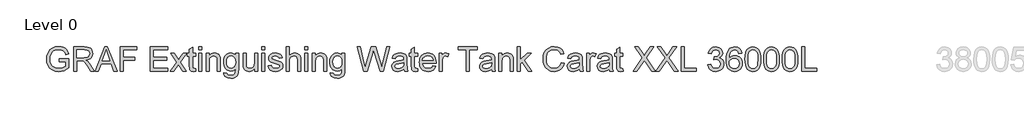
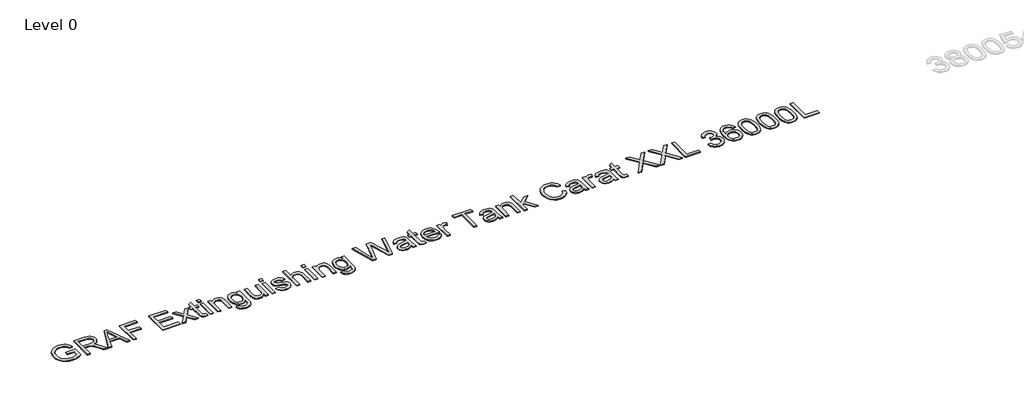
# One storey, part 10 of 37: 1 proxy.
"""IFC4 building model written with IfcOpenShell, lengths in millimetres."""

from ifc_helpers import new_model, si_unit, origin, origin_with_axes, place, context, project, spatial, polyline, outline, extrude, element, save

model = new_model("IFC4")

# Units and contexts
model_context = context("Model", 3, world=origin())
ifc_project = project(units=[si_unit("LENGTHUNIT", "METRE", prefix="MILLI")], contexts=[model_context])

# Site, building, storey
site = spatial("IfcSite", under=ifc_project)
building = spatial("IfcBuilding", under=site)
storey = spatial("IfcBuildingStorey", under=building, Name="Level 0", Elevation=0.0)

# Proxy
placement = place(None, origin())
element("IfcBuildingElementProxy", 1, Name="300mm Arial", ObjectType="300mm Arial", at=placement, inside=storey, context=model_context, shape_type="SweptSolid", body=[
    extrude(outline(polyline([(-17240.9940387, -17583.2545597), (-17240.9940387, -17545.5834434), (-17118.5629107, -17545.5834434), (-17118.5629107, -17658.2289103), (-17148.3153671, -17678.9222726), (-17179.0059225, -17693.7663111), (-17210.5610007, -17702.7058436), (-17242.9070251, -17705.6856877), (-17285.1674693, -17700.949207), (-17323.3628175, -17686.739765), (-17355.0926395, -17663.5540022), (-17377.9565055, -17631.8885595), (-17391.7796715, -17593.9047435), (-17396.3873935, -17551.7638609), (-17391.7980656, -17509.3194757), (-17378.0300819, -17469.8365406), (-17355.6536596, -17436.717964), (-17325.2390156, -17413.3666543), (-17288.1932987, -17399.5158972), (-17245.9236575, -17394.8989782), (-17214.8928112, -17397.5753197), (-17186.9889618, -17405.6043443), (-17163.4904994, -17418.4066377), (-17145.6758138, -17435.4027859), (-17132.4964413, -17457.4113262), (-17122.9039183, -17485.2507962), (-17157.6319786, -17495.0364573), (-17165.3850917, -17475.1800266), (-17174.8120678, -17460.1980323), (-17187.2832674, -17448.9040551), (-17204.169051, -17440.1116754), (-17224.3013932, -17434.4554897), (-17246.5122687, -17432.5700945), (-17272.5123287, -17434.6026425), (-17294.7415982, -17440.7002866), (-17313.1173039, -17450.0996716), (-17327.5566722, -17462.0374423), (-17346.9440533, -17491.0633317), (-17355.7732212, -17519.50061), (-17358.7162772, -17550.2187566), (-17355.175413, -17586.2436009), (-17344.5528204, -17615.8856927), (-17327.1703961, -17638.9334997), (-17303.3500369, -17655.1754898), (-17275.4737787, -17664.804801), (-17245.9236575, -17668.0145714), (-17219.831627, -17665.5957473), (-17194.3833899, -17658.3392749), (-17172.2828791, -17648.3420817), (-17156.234027, -17637.701095), (-17156.234027, -17583.2545597), (-17240.9940387, -17583.2545597)])), origin_with_axes(), (0.0, 0.0, 1.0), 10.0),
    extrude(outline(polyline([(-17057.3473467, -17700.9767982), (-17057.3473467, -17399.6078677), (-16927.4850024, -17399.6078677), (-16892.5821982, -17401.6404158), (-16867.1891434, -17407.7380598), (-16848.6294968, -17418.9952489), (-16834.2269167, -17436.5064318), (-16824.9838815, -17458.2206666), (-16821.9028698, -17482.087011), (-16827.0072325, -17511.7750881), (-16842.3203206, -17536.3863935), (-16853.9200997, -17546.4157764), (-16868.3019865, -17554.4310054), (-16905.4120827, -17564.4190016), (-16884.0013506, -17580.532233), (-16853.467145, -17619.3069952), (-16803.2144645, -17700.9767982), (-16846.9924219, -17700.9767982), (-16886.2086426, -17638.5104354), (-16914.5355562, -17597.1604991), (-16934.4379722, -17577.6259652), (-16952.3538253, -17570.4522663), (-16974.2060158, -17569.1278911), (-17019.6762304, -17569.1278911), (-17019.6762304, -17700.9767982), (-17057.3473467, -17700.9767982)]), holes=[polyline([(-17019.6762304, -17531.4567748), (-16935.3576771, -17531.4567748), (-16911.1418448, -17530.1232026), (-16892.3522719, -17526.1224859), (-16878.2072092, -17519.1879103), (-16867.9249074, -17509.0527613), (-16861.6617165, -17496.7930938), (-16859.5739861, -17483.4849626), (-16863.5563087, -17465.109257), (-16875.5032765, -17450.3020067), (-16896.058683, -17440.5347397), (-16925.8663217, -17437.278984), (-17019.6762304, -17437.278984), (-17019.6762304, -17531.4567748)])]), origin_with_axes(), (0.0, 0.0, 1.0), 10.0),
    extrude(outline(polyline([(-16791.0743586, -17700.9767982), (-16670.7769462, -17399.6078677), (-16638.6976362, -17399.6078677), (-16518.4002238, -17700.9767982), (-16558.2050557, -17700.9767982), (-16592.7123868, -17606.7990074), (-16716.835772, -17606.7990074), (-16751.2695268, -17700.9767982), (-16791.0743586, -17700.9767982)]), holes=[polyline([(-16703.003409, -17569.1278911), (-16606.4711735, -17569.1278911), (-16633.6208647, -17495.0364573), (-16654.7372912, -17437.278984), (-16673.499273, -17488.5617342), (-16703.003409, -17569.1278911)])]), origin_with_axes(), (0.0, 0.0, 1.0), 10.0),
    extrude(outline(polyline([(-16478.1539335, -17700.9767982), (-16478.1539335, -17399.6078677), (-16275.6716834, -17399.6078677), (-16275.6716834, -17437.278984), (-16440.4828172, -17437.278984), (-16440.4828172, -17526.7478853), (-16299.2161311, -17526.7478853), (-16299.2161311, -17564.4190016), (-16440.4828172, -17564.4190016), (-16440.4828172, -17700.9767982), (-16478.1539335, -17700.9767982)])), origin_with_axes(), (0.0, 0.0, 1.0), 10.0),
    extrude(outline(polyline([(-16106.15166, -17700.9767982), (-16106.15166, -17399.6078677), (-15889.5427413, -17399.6078677), (-15889.5427413, -17437.278984), (-16068.4805437, -17437.278984), (-16068.4805437, -17526.7478853), (-15898.9605203, -17526.7478853), (-15898.9605203, -17564.4190016), (-16068.4805437, -17564.4190016), (-16068.4805437, -17663.3056819), (-15884.8338517, -17663.3056819), (-15884.8338517, -17700.9767982), (-16106.15166, -17700.9767982)])), origin_with_axes(), (0.0, 0.0, 1.0), 10.0),
    extrude(outline(polyline([(-15856.5805145, -17700.9767982), (-15776.0879339, -17589.7292828), (-15851.8716249, -17479.6589899), (-15806.5485631, -17479.6589899), (-15769.9810928, -17532.6339972), (-15752.9113682, -17557.6499729), (-15738.122512, -17537.1957339), (-15696.4782702, -17479.6589899), (-15651.1552084, -17479.6589899), (-15730.7648721, -17589.7292828), (-15654.0982643, -17700.9767982), (-15699.4213261, -17700.9767982), (-15745.5537283, -17634.0958515), (-15754.0150142, -17621.8821692), (-15811.2574527, -17700.9767982), (-15856.5805145, -17700.9767982)])), origin_with_axes(), (0.0, 0.0, 1.0), 10.0),
    extrude(outline(polyline([(-15541.0849154, -17669.5596758), (-15536.3760259, -17702.0804442), (-15564.5557867, -17705.6856877), (-15582.6371868, -17704.1221892), (-15596.1200619, -17699.4316938), (-15605.6482056, -17692.2028126), (-15611.8654113, -17683.0241568), (-15615.2867139, -17667.2604133), (-15616.427148, -17640.276269), (-15616.427148, -17517.3301062), (-15644.6804853, -17517.3301062), (-15644.6804853, -17479.6589899), (-15616.427148, -17479.6589899), (-15616.427148, -17425.8746422), (-15578.7560317, -17403.7281461), (-15578.7560317, -17479.6589899), (-15541.0849154, -17479.6589899), (-15541.0849154, -17517.3301062), (-15578.7560317, -17517.3301062), (-15578.7560317, -17639.172623), (-15576.769469, -17658.5967923), (-15570.331534, -17665.4761856), (-15557.4924524, -17668.0145714), (-15541.0849154, -17669.5596758)])), origin_with_axes(), (0.0, 0.0, 1.0), 10.0),
    extrude(outline(polyline([(-15503.4137991, -17437.278984), (-15503.4137991, -17399.6078677), (-15465.7426828, -17399.6078677), (-15465.7426828, -17437.278984), (-15503.4137991, -17437.278984)])), origin_with_axes(), (0.0, 0.0, 1.0), 10.0),
    extrude(outline(polyline([(-15503.4137991, -17700.9767982), (-15503.4137991, -17479.6589899), (-15465.7426828, -17479.6589899), (-15465.7426828, -17700.9767982), (-15503.4137991, -17700.9767982)])), origin_with_axes(), (0.0, 0.0, 1.0), 10.0),
    extrude(outline(polyline([(-15409.2360084, -17700.9767982), (-15409.2360084, -17479.6589899), (-15371.564892, -17479.6589899), (-15371.564892, -17510.5610775), (-15358.4774901, -17494.981275), (-15342.7597318, -17483.8528446), (-15324.4116173, -17477.1757864), (-15303.4331465, -17474.9501003), (-15284.8643028, -17476.7435251), (-15267.8589576, -17482.1237992), (-15253.6771067, -17490.4195382), (-15243.5787459, -17500.9593574), (-15232.2847687, -17528.6608716), (-15230.2982059, -17565.0811892), (-15230.2982059, -17700.9767982), (-15267.9693222, -17700.9767982), (-15267.9693222, -17570.1579607), (-15272.3103297, -17536.8278519), (-15278.3160033, -17526.9042351), (-15287.6510089, -17519.2063044), (-15299.6163708, -17514.2674886), (-15313.5131132, -17512.6212166), (-15335.5768359, -17516.3184307), (-15354.3848029, -17527.4100729), (-15361.9010919, -17536.4645685), (-15367.2698698, -17548.8391991), (-15371.564892, -17583.5488653), (-15371.564892, -17700.9767982), (-15409.2360084, -17700.9767982)])), origin_with_axes(), (0.0, 0.0, 1.0), 10.0),
    extrude(outline(polyline([(-15187.9182001, -17719.8123563), (-15150.2470837, -17724.5212459), (-15146.0900172, -17736.2934697), (-15138.0334015, -17744.3868736), (-15122.1960816, -17750.6776557), (-15101.4659312, -17752.7745831), (-15079.3562233, -17750.4017442), (-15062.9118981, -17743.2832276), (-15051.5075562, -17731.8788858), (-15044.5177983, -17716.6485712), (-15041.9426244, -17672.7234609), (-15054.4782034, -17685.084296), (-15068.4669162, -17693.9134639), (-15083.908763, -17699.2109646), (-15100.8037436, -17700.9767982), (-15121.4580184, -17698.9212575), (-15139.6428852, -17692.7546356), (-15155.3583442, -17682.4769323), (-15168.6043953, -17668.0881478), (-15179.1143241, -17650.8252852), (-15186.621416, -17631.9253477), (-15191.1256712, -17611.3883353), (-15192.6270896, -17589.214248), (-15189.932354, -17558.7996041), (-15181.8481471, -17530.8313754), (-15168.6595776, -17507.1305779), (-15150.6517539, -17489.5182274), (-15128.4408785, -17478.5921321), (-15102.6431536, -17474.9501003), (-15085.0262045, -17477.0102395), (-15069.0371333, -17483.190657), (-15054.6759399, -17493.4913529), (-15041.9426244, -17507.9123271), (-15041.9426244, -17479.6589899), (-15004.2715081, -17479.6589899), (-15004.2715081, -17670.7368982), (-15006.846682, -17714.8551464), (-15014.5722039, -17743.908627), (-15027.8803351, -17763.1764465), (-15047.2033369, -17777.9377116), (-15072.118145, -17787.3187024), (-15102.2016952, -17790.4456994), (-15137.2516523, -17786.0403125), (-15164.851999, -17772.8241518), (-15175.2469646, -17762.9028343), (-15182.55632, -17750.7604292), (-15186.7800651, -17736.3969365), (-15187.9182001, -17719.8123563)]), holes=[polyline([(-15154.9559733, -17586.6390741), (-15150.9368625, -17621.1923905), (-15138.8795301, -17644.9483703), (-15120.7521448, -17658.716354), (-15098.5228752, -17663.3056819), (-15076.4591526, -17658.7439451), (-15058.2397968, -17645.0587349), (-15046.0169175, -17621.6062577), (-15041.9426244, -17587.7427201), (-15046.1364791, -17555.0839959), (-15058.7180433, -17531.5671394), (-15077.2041136, -17517.3576973), (-15099.1114864, -17512.6212166), (-15120.6233861, -17517.2841209), (-15138.6588009, -17531.2728338), (-15150.8816802, -17554.4402024), (-15154.9559733, -17586.6390741)])]), origin_with_axes(), (0.0, 0.0, 1.0), 10.0),
    extrude(outline(polyline([(-14806.4981475, -17700.9767982), (-14806.4981475, -17662.9377999), (-14820.1281754, -17681.6400008), (-14836.0022835, -17694.9987158), (-14854.1204717, -17703.0139447), (-14874.4827402, -17705.6856877), (-14892.8308547, -17703.8094895), (-14909.9097763, -17698.180895), (-14924.23878, -17689.7196091), (-14934.3371408, -17679.3453369), (-14945.5575416, -17651.6070344), (-14947.7648336, -17616.5846685), (-14947.7648336, -17479.6589899), (-14910.0937173, -17479.6589899), (-14910.0937173, -17598.8527563), (-14907.8128489, -17637.2596366), (-14902.3222101, -17650.0711271), (-14892.9136281, -17659.8108029), (-14880.2125022, -17665.9636293), (-14864.8442319, -17668.0145714), (-14848.5930448, -17665.917644), (-14833.3903213, -17659.6268619), (-14820.8547423, -17649.7216392), (-14812.6049886, -17636.78139), (-14808.0248577, -17619.0586749), (-14806.4981475, -17594.8060544), (-14806.4981475, -17479.6589899), (-14768.8270311, -17479.6589899), (-14768.8270311, -17700.9767982), (-14806.4981475, -17700.9767982)])), origin_with_axes(), (0.0, 0.0, 1.0), 10.0),
    extrude(outline(polyline([(-14717.0292462, -17437.278984), (-14717.0292462, -17399.6078677), (-14679.3581299, -17399.6078677), (-14679.3581299, -17437.278984), (-14717.0292462, -17437.278984)])), origin_with_axes(), (0.0, 0.0, 1.0), 10.0),
    extrude(outline(polyline([(-14717.0292462, -17700.9767982), (-14717.0292462, -17479.6589899), (-14679.3581299, -17479.6589899), (-14679.3581299, -17700.9767982), (-14717.0292462, -17700.9767982)])), origin_with_axes(), (0.0, 0.0, 1.0), 10.0),
    extrude(outline(polyline([(-14636.9781241, -17635.0523446), (-14599.3070078, -17630.3434551), (-14593.3657135, -17646.4566865), (-14581.8694012, -17658.3024867), (-14564.7444943, -17665.5865502), (-14541.9174165, -17668.0145714), (-14519.3662502, -17665.7888853), (-14503.5105362, -17659.1118271), (-14494.1295453, -17649.4365307), (-14491.0025484, -17638.2161298), (-14494.1479394, -17628.6144097), (-14503.5841126, -17621.293558), (-14542.3588749, -17610.5514038), (-14599.0862786, -17592.1205158), (-14613.4428734, -17582.8590866), (-14623.8447368, -17570.5994191), (-14630.1631101, -17556.1232626), (-14632.2692345, -17540.2123663), (-14630.5769774, -17525.6166481), (-14625.5002058, -17512.1429701), (-14617.4987724, -17500.324761), (-14607.0325297, -17490.6954497), (-14583.0834118, -17479.5486253), (-14550.673008, -17474.9501003), (-14526.153673, -17476.7987074), (-14504.8349114, -17482.3445284), (-14487.6916104, -17491.0449376), (-14475.6986574, -17502.357309), (-14467.7524063, -17517.118574), (-14462.7492112, -17536.1656643), (-14500.4203275, -17540.8745539), (-14505.1752023, -17529.0195566), (-14514.5837843, -17520.0892211), (-14528.738044, -17514.4882178), (-14547.729952, -17512.6212166), (-14569.3614134, -17514.4054443), (-14583.7823876, -17519.7581274), (-14591.8941856, -17527.4836493), (-14594.5981182, -17536.3863935), (-14590.1099579, -17547.349277), (-14576.0568657, -17555.6634101), (-14543.6096737, -17563.6832376), (-14488.3170098, -17581.4151497), (-14473.7120946, -17589.8948297), (-14462.6388466, -17601.5015067), (-14455.6582857, -17616.2719688), (-14453.3314321, -17634.2430043), (-14456.0629559, -17652.821045), (-14464.2575273, -17670.2954398), (-14477.6024467, -17685.2958281), (-14495.7850143, -17696.4518496), (-14517.7475694, -17703.3772282), (-14542.4324513, -17705.6856877), (-14580.4162673, -17701.2343156), (-14608.1361757, -17687.8801991), (-14626.64064, -17665.7704912), (-14636.9781241, -17635.0523446)])), origin_with_axes(), (0.0, 0.0, 1.0), 10.0),
    extrude(outline(polyline([(-14410.9514262, -17700.9767982), (-14410.9514262, -17399.6078677), (-14373.2803099, -17399.6078677), (-14373.2803099, -17510.4139247), (-14359.4433484, -17494.8985015), (-14343.9049326, -17483.8160564), (-14326.6650626, -17477.1665894), (-14307.7237384, -17474.9501003), (-14284.970237, -17477.3689245), (-14265.4173089, -17484.6253968), (-14250.0214474, -17496.1493003), (-14239.7391457, -17511.3704179), (-14233.9450043, -17532.2845093), (-14232.0136238, -17560.8873344), (-14232.0136238, -17700.9767982), (-14269.6847401, -17700.9767982), (-14269.6847401, -17564.7868836), (-14272.6829784, -17541.2056477), (-14281.6776931, -17525.0556281), (-14296.1722437, -17515.7298195), (-14315.6699895, -17512.6212166), (-14331.5900828, -17514.718144), (-14346.5352889, -17521.0089261), (-14358.914518, -17530.8865577), (-14367.1366806, -17543.7440334), (-14371.7444026, -17560.8321521), (-14373.2803099, -17583.4017125), (-14373.2803099, -17700.9767982), (-14410.9514262, -17700.9767982)])), origin_with_axes(), (0.0, 0.0, 1.0), 10.0),
    extrude(outline(polyline([(-14180.2158389, -17437.278984), (-14180.2158389, -17399.6078677), (-14142.5447226, -17399.6078677), (-14142.5447226, -17437.278984), (-14180.2158389, -17437.278984)])), origin_with_axes(), (0.0, 0.0, 1.0), 10.0),
    extrude(outline(polyline([(-14180.2158389, -17700.9767982), (-14180.2158389, -17479.6589899), (-14142.5447226, -17479.6589899), (-14142.5447226, -17700.9767982), (-14180.2158389, -17700.9767982)])), origin_with_axes(), (0.0, 0.0, 1.0), 10.0),
    extrude(outline(polyline([(-14086.0380481, -17700.9767982), (-14086.0380481, -17479.6589899), (-14048.3669318, -17479.6589899), (-14048.3669318, -17510.5610775), (-14035.2795298, -17494.981275), (-14019.5617716, -17483.8528446), (-14001.2136571, -17477.1757864), (-13980.2351863, -17474.9501003), (-13961.6663426, -17476.7435251), (-13944.6609974, -17482.1237992), (-13930.4791464, -17490.4195382), (-13920.3807857, -17500.9593574), (-13909.0868084, -17528.6608716), (-13907.1002456, -17565.0811892), (-13907.1002456, -17700.9767982), (-13944.771362, -17700.9767982), (-13944.771362, -17570.1579607), (-13949.1123695, -17536.8278519), (-13955.1180431, -17526.9042351), (-13964.4530487, -17519.2063044), (-13976.4184106, -17514.2674886), (-13990.315153, -17512.6212166), (-14012.3788756, -17516.3184307), (-14031.1868426, -17527.4100729), (-14038.7031316, -17536.4645685), (-14044.0719095, -17548.8391991), (-14048.3669318, -17583.5488653), (-14048.3669318, -17700.9767982), (-14086.0380481, -17700.9767982)])), origin_with_axes(), (0.0, 0.0, 1.0), 10.0),
    extrude(outline(polyline([(-13864.7202398, -17719.8123563), (-13827.0491235, -17724.5212459), (-13822.8920569, -17736.2934697), (-13814.8354413, -17744.3868736), (-13798.9981214, -17750.6776557), (-13778.2679709, -17752.7745831), (-13756.158263, -17750.4017442), (-13739.7139378, -17743.2832276), (-13728.309596, -17731.8788858), (-13721.3198381, -17716.6485712), (-13718.7446641, -17672.7234609), (-13731.2802431, -17685.084296), (-13745.268956, -17693.9134639), (-13760.7108027, -17699.2109646), (-13777.6057833, -17700.9767982), (-13798.2600581, -17698.9212575), (-13816.444925, -17692.7546356), (-13832.160384, -17682.4769323), (-13845.4064351, -17668.0881478), (-13855.9163638, -17650.8252852), (-13863.4234558, -17631.9253477), (-13867.9277109, -17611.3883353), (-13869.4291293, -17589.214248), (-13866.7343937, -17558.7996041), (-13858.6501869, -17530.8313754), (-13845.4616174, -17507.1305779), (-13827.4537937, -17489.5182274), (-13805.2429182, -17478.5921321), (-13779.4451933, -17474.9501003), (-13761.8282443, -17477.0102395), (-13745.8391731, -17483.190657), (-13731.4779797, -17493.4913529), (-13718.7446641, -17507.9123271), (-13718.7446641, -17479.6589899), (-13681.0735478, -17479.6589899), (-13681.0735478, -17670.7368982), (-13683.6487218, -17714.8551464), (-13691.3742437, -17743.908627), (-13704.6823748, -17763.1764465), (-13724.0053766, -17777.9377116), (-13748.9201848, -17787.3187024), (-13779.0037349, -17790.4456994), (-13814.053692, -17786.0403125), (-13841.6540387, -17772.8241518), (-13852.0490043, -17762.9028343), (-13859.3583597, -17750.7604292), (-13863.5821049, -17736.3969365), (-13864.7202398, -17719.8123563)]), holes=[polyline([(-13831.758013, -17586.6390741), (-13827.7389022, -17621.1923905), (-13815.6815698, -17644.9483703), (-13797.5541845, -17658.716354), (-13775.324915, -17663.3056819), (-13753.2611923, -17658.7439451), (-13735.0418365, -17645.0587349), (-13722.8189572, -17621.6062577), (-13718.7446641, -17587.7427201), (-13722.9385189, -17555.0839959), (-13735.5200831, -17531.5671394), (-13754.0061534, -17517.3576973), (-13775.9135262, -17512.6212166), (-13797.4254258, -17517.2841209), (-13815.4608406, -17531.2728338), (-13827.6837199, -17554.4402024), (-13831.758013, -17586.6390741)])]), origin_with_axes(), (0.0, 0.0, 1.0), 10.0),
    extrude(outline(polyline([(-13448.2042449, -17700.9767982), (-13530.3890826, -17399.6078677), (-13491.5407439, -17399.6078677), (-13443.8632373, -17597.6755339), (-13429.1479575, -17658.8175215), (-13413.4026081, -17604.7388682), (-13353.6585721, -17399.6078677), (-13297.6669324, -17399.6078677), (-13254.256857, -17548.3057702), (-13235.6604221, -17603.4880695), (-13221.9568178, -17658.8175215), (-13207.6829964, -17599.4413675), (-13159.5640314, -17399.6078677), (-13120.7156928, -17399.6078677), (-13202.9741069, -17700.9767982), (-13243.2203971, -17700.9767982), (-13315.472421, -17468.4753772), (-13325.5523877, -17436.0281853), (-13336.8831531, -17475.0972531), (-13402.7340303, -17700.9767982), (-13448.2042449, -17700.9767982)])), origin_with_axes(), (0.0, 0.0, 1.0), 10.0),
    extrude(outline(polyline([(-12946.4867798, -17672.7234609), (-12964.4854065, -17688.1561106), (-12983.017462, -17698.2544714), (-13002.5060107, -17703.8278836), (-13023.3741168, -17705.6856877), (-13054.8556186, -17701.2159215), (-13078.0781695, -17687.8066228), (-13092.3979762, -17667.4443543), (-13097.1712451, -17642.1156789), (-13095.3686233, -17626.4990883), (-13089.960758, -17612.3172373), (-13081.6190337, -17600.1771315), (-13071.0148352, -17590.685776), (-13044.6376962, -17578.324941), (-13012.0433514, -17572.6595583), (-12973.5261065, -17566.6998699), (-12946.707509, -17559.710112), (-12946.4867798, -17551.3224025), (-12949.0803479, -17534.5101954), (-12956.8610521, -17523.5105237), (-12974.2618705, -17515.3435434), (-12998.505294, -17512.6212166), (-13020.9460957, -17514.4330355), (-13036.6178687, -17519.868492), (-13047.3048406, -17529.9208675), (-13054.7912392, -17545.5834434), (-13092.4623555, -17540.8745539), (-13085.9232531, -17520.2731621), (-13076.1651831, -17504.0863544), (-13062.2776378, -17491.7071252), (-13043.3501092, -17482.5284694), (-13020.2011346, -17476.8446926), (-12993.6492516, -17474.9501003), (-12968.1826205, -17476.6239634), (-12947.995096, -17481.6455527), (-12932.7739785, -17489.1963306), (-12922.2065682, -17498.4577598), (-12915.1984162, -17509.9080869), (-12910.6550735, -17524.0255585), (-12908.8156635, -17556.9877853), (-12908.8156635, -17603.8559515), (-12906.9026772, -17669.3021584), (-12899.3978845, -17700.9767982), (-12937.0690008, -17700.9767982), (-12946.4867798, -17672.7234609)]), holes=[polyline([(-12946.4867798, -17597.3812283), (-13007.2608854, -17608.932723), (-13039.6712892, -17615.0395641), (-13054.3497808, -17624.972378), (-13059.5001288, -17639.4669286), (-13056.6950285, -17650.6689353), (-13048.2797279, -17659.8475911), (-13034.4381678, -17665.9728263), (-13015.3542893, -17668.0145714), (-12995.1207796, -17665.7612942), (-12977.2417146, -17659.0014625), (-12962.747164, -17649.0410575), (-12952.6671974, -17637.1860602), (-12948.1974311, -17624.972378), (-12946.707509, -17608.0498062), (-12946.4867798, -17597.3812283)])]), origin_with_axes(), (0.0, 0.0, 1.0), 10.0),
    extrude(outline(polyline([(-12776.9667565, -17669.5596758), (-12772.2578669, -17702.0804442), (-12800.4376278, -17705.6856877), (-12818.5190278, -17704.1221892), (-12832.0019029, -17699.4316938), (-12841.5300466, -17692.2028126), (-12847.7472523, -17683.0241568), (-12851.1685549, -17667.2604133), (-12852.3089891, -17640.276269), (-12852.3089891, -17517.3301062), (-12880.5623263, -17517.3301062), (-12880.5623263, -17479.6589899), (-12852.3089891, -17479.6589899), (-12852.3089891, -17425.8746422), (-12814.6378728, -17403.7281461), (-12814.6378728, -17479.6589899), (-12776.9667565, -17479.6589899), (-12776.9667565, -17517.3301062), (-12814.6378728, -17517.3301062), (-12814.6378728, -17639.172623), (-12812.65131, -17658.5967923), (-12806.2133751, -17665.4761856), (-12793.3742934, -17668.0145714), (-12776.9667565, -17669.5596758)])), origin_with_axes(), (0.0, 0.0, 1.0), 10.0),
    extrude(outline(polyline([(-12584.3437438, -17635.0523446), (-12547.4083915, -17639.7612342), (-12560.7165226, -17667.5915071), (-12581.9525108, -17688.3952339), (-12610.6381094, -17701.3630743), (-12646.2950718, -17705.6856877), (-12669.669374, -17703.8209859), (-12690.4960935, -17698.2268803), (-12708.7752301, -17688.9033709), (-12724.506784, -17675.8504579), (-12737.1573261, -17659.4314246), (-12746.1934276, -17640.0095545), (-12751.6150885, -17617.5848477), (-12753.4223088, -17592.157304), (-12751.5966944, -17565.8675369), (-12746.1198512, -17542.6955698), (-12736.9917792, -17522.6414025), (-12724.2124784, -17505.7050351), (-12708.5223113, -17492.2497512), (-12690.6616404, -17482.638834), (-12670.6304658, -17476.8722838), (-12648.4287873, -17474.9501003), (-12626.9421796, -17476.8676852), (-12607.5111124, -17482.6204399), (-12590.1355859, -17492.2083644), (-12574.8156001, -17505.6314587), (-12562.3099115, -17522.5310379), (-12553.3772768, -17542.548417), (-12548.017696, -17565.6835959), (-12546.2311691, -17591.9365748), (-12546.4518983, -17602.0901179), (-12715.7511925, -17602.0901179), (-12709.2304841, -17630.2882728), (-12694.0829429, -17651.0184232), (-12672.2215554, -17663.7655344), (-12645.5593078, -17668.0145714), (-12625.509739, -17666.0464027), (-12608.6239555, -17660.1418967), (-12594.901957, -17649.9331713), (-12584.3437438, -17635.0523446)]), holes=[polyline([(-12715.7511925, -17564.4190016), (-12583.9022854, -17564.4190016), (-12588.997451, -17544.5165856), (-12598.9854472, -17530.2795524), (-12620.9480023, -17517.0358006), (-12648.5759401, -17512.6212166), (-12673.9689949, -17516.1436868), (-12694.9658597, -17526.7110971), (-12709.5615779, -17543.1830134), (-12715.7511925, -17564.4190016)])]), origin_with_axes(), (0.0, 0.0, 1.0), 10.0),
    extrude(outline(polyline([(-12508.5600528, -17700.9767982), (-12508.5600528, -17479.6589899), (-12475.597826, -17479.6589899), (-12475.597826, -17512.4004875), (-12463.420932, -17493.4177765), (-12452.2005311, -17482.2341638), (-12440.9433421, -17476.7711162), (-12428.6560834, -17474.9501003), (-12409.8941017, -17477.8563681), (-12390.8378143, -17486.5751714), (-12403.4193786, -17520.3467385), (-12416.6631304, -17514.5525971), (-12429.9068822, -17512.6212166), (-12441.1548742, -17514.4790207), (-12451.2072497, -17520.052433), (-12459.3282448, -17528.918389), (-12464.7820954, -17540.6538247), (-12469.3622262, -17561.6966748), (-12470.8889365, -17584.6525113), (-12470.8889365, -17700.9767982), (-12508.5600528, -17700.9767982)])), origin_with_axes(), (0.0, 0.0, 1.0), 10.0),
    extrude(outline(polyline([(-12169.520006, -17700.9767982), (-12169.520006, -17437.278984), (-12268.4066863, -17437.278984), (-12268.4066863, -17399.6078677), (-12032.9622094, -17399.6078677), (-12032.9622094, -17437.278984), (-12131.8488897, -17437.278984), (-12131.8488897, -17700.9767982), (-12169.520006, -17700.9767982)])), origin_with_axes(), (0.0, 0.0, 1.0), 10.0),
    extrude(outline(polyline([(-11854.024407, -17672.7234609), (-11872.0230336, -17688.1561106), (-11890.5550891, -17698.2544714), (-11910.0436378, -17703.8278836), (-11930.911744, -17705.6856877), (-11962.3932457, -17701.2159215), (-11985.6157966, -17687.8066228), (-11999.9356033, -17667.4443543), (-12004.7088722, -17642.1156789), (-12002.9062504, -17626.4990883), (-11997.4983851, -17612.3172373), (-11989.1566608, -17600.1771315), (-11978.5524623, -17590.685776), (-11952.1753233, -17578.324941), (-11919.5809785, -17572.6595583), (-11881.0637336, -17566.6998699), (-11854.2451362, -17559.710112), (-11854.024407, -17551.3224025), (-11856.617975, -17534.5101954), (-11864.3986792, -17523.5105237), (-11881.7994976, -17515.3435434), (-11906.0429211, -17512.6212166), (-11928.4837228, -17514.4330355), (-11944.1554958, -17519.868492), (-11954.8424677, -17529.9208675), (-11962.3288663, -17545.5834434), (-11999.9999826, -17540.8745539), (-11993.4608802, -17520.2731621), (-11983.7028103, -17504.0863544), (-11969.8152649, -17491.7071252), (-11950.8877363, -17482.5284694), (-11927.7387617, -17476.8446926), (-11901.1868787, -17474.9501003), (-11875.7202476, -17476.6239634), (-11855.5327231, -17481.6455527), (-11840.3116056, -17489.1963306), (-11829.7441953, -17498.4577598), (-11822.7360433, -17509.9080869), (-11818.1927006, -17524.0255585), (-11816.3532907, -17556.9877853), (-11816.3532907, -17603.8559515), (-11814.4403043, -17669.3021584), (-11806.9355116, -17700.9767982), (-11844.6066279, -17700.9767982), (-11854.024407, -17672.7234609)]), holes=[polyline([(-11854.024407, -17597.3812283), (-11914.7985126, -17608.932723), (-11947.2089163, -17615.0395641), (-11961.8874079, -17624.972378), (-11967.0377559, -17639.4669286), (-11964.2326557, -17650.6689353), (-11955.817355, -17659.8475911), (-11941.975795, -17665.9728263), (-11922.8919165, -17668.0145714), (-11902.6584067, -17665.7612942), (-11884.7793418, -17659.0014625), (-11870.2847911, -17649.0410575), (-11860.2048245, -17637.1860602), (-11855.7350582, -17624.972378), (-11854.2451362, -17608.0498062), (-11854.024407, -17597.3812283)])]), origin_with_axes(), (0.0, 0.0, 1.0), 10.0),
    extrude(outline(polyline([(-11764.5555057, -17700.9767982), (-11764.5555057, -17479.6589899), (-11726.8843894, -17479.6589899), (-11726.8843894, -17510.5610775), (-11713.7969875, -17494.981275), (-11698.0792292, -17483.8528446), (-11679.7311147, -17477.1757864), (-11658.7526439, -17474.9501003), (-11640.1838002, -17476.7435251), (-11623.178455, -17482.1237992), (-11608.9966041, -17490.4195382), (-11598.8982433, -17500.9593574), (-11587.6042661, -17528.6608716), (-11585.6177033, -17565.0811892), (-11585.6177033, -17700.9767982), (-11623.2888196, -17700.9767982), (-11623.2888196, -17570.1579607), (-11627.6298271, -17536.8278519), (-11633.6355007, -17526.9042351), (-11642.9705063, -17519.2063044), (-11654.9358682, -17514.2674886), (-11668.8326106, -17512.6212166), (-11690.8963333, -17516.3184307), (-11709.7043003, -17527.4100729), (-11717.2205893, -17536.4645685), (-11722.5893671, -17548.8391991), (-11726.8843894, -17583.5488653), (-11726.8843894, -17700.9767982), (-11764.5555057, -17700.9767982)])), origin_with_axes(), (0.0, 0.0, 1.0), 10.0),
    extrude(outline(polyline([(-11533.8199184, -17700.9767982), (-11533.8199184, -17399.6078677), (-11496.1488021, -17399.6078677), (-11496.1488021, -17561.549522), (-11411.683096, -17479.6589899), (-11359.5910054, -17479.6589899), (-11445.0867811, -17562.5795916), (-11354.8821159, -17700.9767982), (-11398.8808025, -17700.9767982), (-11472.0893196, -17588.7727896), (-11496.1488021, -17612.0965081), (-11496.1488021, -17700.9767982), (-11533.8199184, -17700.9767982)])), origin_with_axes(), (0.0, 0.0, 1.0), 10.0),
    extrude(outline(polyline([(-10987.5887319, -17593.8495612), (-10949.9176156, -17603.5616459), (-10957.3718245, -17626.9888312), (-10967.3000399, -17647.4591649), (-10979.7022617, -17664.9726472), (-10994.5784898, -17679.5292779), (-11011.5930321, -17690.9727072), (-11030.4101962, -17699.1465853), (-11051.029982, -17704.0509121), (-11073.4523896, -17705.6856877), (-11117.1475736, -17700.7376749), (-11151.8480428, -17685.8936364), (-11178.445911, -17661.668607), (-11197.8332922, -17628.5776215), (-11209.6698954, -17589.6741005), (-11213.6154298, -17548.0114646), (-11209.1548606, -17504.0679603), (-11195.773153, -17466.1209325), (-11174.1692828, -17435.3751947), (-11145.0422259, -17413.0355606), (-11110.4981065, -17399.4331238), (-11072.6430492, -17394.8989782), (-11031.3390982, -17400.766696), (-11013.370362, -17408.1013433), (-10997.190452, -17418.3698495), (-10983.0660826, -17431.3009016), (-10971.2639684, -17446.6231867), (-10954.6265052, -17484.4414558), (-10992.2976215, -17493.4177765), (-11005.3574323, -17465.9461885), (-11023.1997091, -17447.1014333), (-11046.045181, -17436.2029292), (-11074.1145772, -17432.5700945), (-11106.4697987, -17436.5984023), (-11133.0492728, -17448.6833259), (-11153.2184032, -17467.5556722), (-11166.3425934, -17491.9462485), (-11173.5438834, -17519.5190041), (-11175.9443135, -17547.9378882), (-11173.102425, -17582.7395249), (-11164.5767598, -17612.8322721), (-11150.045421, -17637.0664986), (-11129.1865119, -17654.292573), (-11104.1797332, -17664.5840718), (-11077.2047859, -17668.0145714), (-11045.7600724, -17663.3424701), (-11019.5576773, -17649.3261661), (-10999.774823, -17626.1128122), (-10987.5887319, -17593.8495612)])), origin_with_axes(), (0.0, 0.0, 1.0), 10.0),
    extrude(outline(polyline([(-10761.5620341, -17672.7234609), (-10779.5606607, -17688.1561106), (-10798.0927162, -17698.2544714), (-10817.5812649, -17703.8278836), (-10838.4493711, -17705.6856877), (-10869.9308728, -17701.2159215), (-10893.1534238, -17687.8066228), (-10907.4732304, -17667.4443543), (-10912.2464993, -17642.1156789), (-10910.4438775, -17626.4990883), (-10905.0360122, -17612.3172373), (-10896.694288, -17600.1771315), (-10886.0900895, -17590.685776), (-10859.7129504, -17578.324941), (-10827.1186056, -17572.6595583), (-10788.6013607, -17566.6998699), (-10761.7827633, -17559.710112), (-10761.5620341, -17551.3224025), (-10764.1556022, -17534.5101954), (-10771.9363064, -17523.5105237), (-10789.3371247, -17515.3435434), (-10813.5805482, -17512.6212166), (-10836.0213499, -17514.4330355), (-10851.6931229, -17519.868492), (-10862.3800949, -17529.9208675), (-10869.8664935, -17545.5834434), (-10907.5376098, -17540.8745539), (-10900.9985073, -17520.2731621), (-10891.2404374, -17504.0863544), (-10877.3528921, -17491.7071252), (-10858.4253634, -17482.5284694), (-10835.2763889, -17476.8446926), (-10808.7245059, -17474.9501003), (-10783.2578748, -17476.6239634), (-10763.0703503, -17481.6455527), (-10747.8492327, -17489.1963306), (-10737.2818224, -17498.4577598), (-10730.2736704, -17509.9080869), (-10725.7303278, -17524.0255585), (-10723.8909178, -17556.9877853), (-10723.8909178, -17603.8559515), (-10721.9779314, -17669.3021584), (-10714.4731387, -17700.9767982), (-10752.144255, -17700.9767982), (-10761.5620341, -17672.7234609)]), holes=[polyline([(-10761.5620341, -17597.3812283), (-10822.3361397, -17608.932723), (-10854.7465435, -17615.0395641), (-10869.4250351, -17624.972378), (-10874.575383, -17639.4669286), (-10871.7702828, -17650.6689353), (-10863.3549822, -17659.8475911), (-10849.5134221, -17665.9728263), (-10830.4295436, -17668.0145714), (-10810.1960338, -17665.7612942), (-10792.3169689, -17659.0014625), (-10777.8224183, -17649.0410575), (-10767.7424516, -17637.1860602), (-10763.2726854, -17624.972378), (-10761.7827633, -17608.0498062), (-10761.5620341, -17597.3812283)])]), origin_with_axes(), (0.0, 0.0, 1.0), 10.0),
    extrude(outline(polyline([(-10672.0931329, -17700.9767982), (-10672.0931329, -17479.6589899), (-10639.1309061, -17479.6589899), (-10639.1309061, -17512.4004875), (-10626.9540121, -17493.4177765), (-10615.7336112, -17482.2341638), (-10604.4764221, -17476.7711162), (-10592.1891635, -17474.9501003), (-10573.4271818, -17477.8563681), (-10554.3708944, -17486.5751714), (-10566.9524586, -17520.3467385), (-10580.1962105, -17514.5525971), (-10593.4399623, -17512.6212166), (-10604.6879543, -17514.4790207), (-10614.7403298, -17520.052433), (-10622.8613249, -17528.918389), (-10628.3151754, -17540.6538247), (-10632.8953063, -17561.6966748), (-10634.4220166, -17584.6525113), (-10634.4220166, -17700.9767982), (-10672.0931329, -17700.9767982)])), origin_with_axes(), (0.0, 0.0, 1.0), 10.0),
    extrude(outline(polyline([(-10389.5597606, -17672.7234609), (-10407.5583872, -17688.1561106), (-10426.0904427, -17698.2544714), (-10445.5789914, -17703.8278836), (-10466.4470976, -17705.6856877), (-10497.9285993, -17701.2159215), (-10521.1511502, -17687.8066228), (-10535.4709569, -17667.4443543), (-10540.2442258, -17642.1156789), (-10538.441604, -17626.4990883), (-10533.0337387, -17612.3172373), (-10524.6920144, -17600.1771315), (-10514.0878159, -17590.685776), (-10487.7106769, -17578.324941), (-10455.1163321, -17572.6595583), (-10416.5990872, -17566.6998699), (-10389.7804898, -17559.710112), (-10389.5597606, -17551.3224025), (-10392.1533286, -17534.5101954), (-10399.9340328, -17523.5105237), (-10417.3348512, -17515.3435434), (-10441.5782747, -17512.6212166), (-10464.0190764, -17514.4330355), (-10479.6908494, -17519.868492), (-10490.3778213, -17529.9208675), (-10497.8642199, -17545.5834434), (-10535.5353362, -17540.8745539), (-10528.9962338, -17520.2731621), (-10519.2381639, -17504.0863544), (-10505.3506185, -17491.7071252), (-10486.4230899, -17482.5284694), (-10463.2741153, -17476.8446926), (-10436.7222323, -17474.9501003), (-10411.2556012, -17476.6239634), (-10391.0680767, -17481.6455527), (-10375.8469592, -17489.1963306), (-10365.2795489, -17498.4577598), (-10358.2713969, -17509.9080869), (-10353.7280542, -17524.0255585), (-10351.8886443, -17556.9877853), (-10351.8886443, -17603.8559515), (-10349.9756579, -17669.3021584), (-10342.4708652, -17700.9767982), (-10380.1419815, -17700.9767982), (-10389.5597606, -17672.7234609)]), holes=[polyline([(-10389.5597606, -17597.3812283), (-10450.3338662, -17608.932723), (-10482.7442699, -17615.0395641), (-10497.4227615, -17624.972378), (-10502.5731095, -17639.4669286), (-10499.7680093, -17650.6689353), (-10491.3527086, -17659.8475911), (-10477.5111486, -17665.9728263), (-10458.4272701, -17668.0145714), (-10438.1937603, -17665.7612942), (-10420.3146954, -17659.0014625), (-10405.8201448, -17649.0410575), (-10395.7401781, -17637.1860602), (-10391.2704118, -17624.972378), (-10389.7804898, -17608.0498062), (-10389.5597606, -17597.3812283)])]), origin_with_axes(), (0.0, 0.0, 1.0), 10.0),
    extrude(outline(polyline([(-10220.0397372, -17669.5596758), (-10215.3308476, -17702.0804442), (-10243.5106085, -17705.6856877), (-10261.5920085, -17704.1221892), (-10275.0748837, -17699.4316938), (-10284.6030273, -17692.2028126), (-10290.8202331, -17683.0241568), (-10294.2415356, -17667.2604133), (-10295.3819698, -17640.276269), (-10295.3819698, -17517.3301062), (-10323.635307, -17517.3301062), (-10323.635307, -17479.6589899), (-10295.3819698, -17479.6589899), (-10295.3819698, -17425.8746422), (-10257.7108535, -17403.7281461), (-10257.7108535, -17479.6589899), (-10220.0397372, -17479.6589899), (-10220.0397372, -17517.3301062), (-10257.7108535, -17517.3301062), (-10257.7108535, -17639.172623), (-10255.7242907, -17658.5967923), (-10249.2863558, -17665.4761856), (-10236.4472742, -17668.0145714), (-10220.0397372, -17669.5596758)])), origin_with_axes(), (0.0, 0.0, 1.0), 10.0),
    extrude(outline(polyline([(-10092.8997197, -17700.9767982), (-9976.7225856, -17536.7542755), (-10074.0641615, -17399.6078677), (-10028.8882525, -17399.6078677), (-9974.0738352, -17476.7895103), (-9955.6061591, -17506.8822575), (-9933.9746977, -17476.2744755), (-9879.7488916, -17399.6078677), (-9833.910795, -17399.6078677), (-9931.252371, -17537.1957339), (-9815.0752369, -17700.9767982), (-9860.2511459, -17700.9767982), (-9937.6535177, -17591.789422), (-9953.7667491, -17569.1278911), (-9971.4986612, -17593.996714), (-10047.0616231, -17700.9767982), (-10092.8997197, -17700.9767982)])), origin_with_axes(), (0.0, 0.0, 1.0), 10.0),
    extrude(outline(polyline([(-9810.3663474, -17700.9767982), (-9694.1892133, -17536.7542755), (-9791.5307892, -17399.6078677), (-9746.3548802, -17399.6078677), (-9691.5404629, -17476.7895103), (-9673.0727868, -17506.8822575), (-9651.4413254, -17476.2744755), (-9597.2155194, -17399.6078677), (-9551.3774228, -17399.6078677), (-9648.7189987, -17537.1957339), (-9532.5418646, -17700.9767982), (-9577.7177736, -17700.9767982), (-9655.1201454, -17591.789422), (-9671.2333768, -17569.1278911), (-9688.9652889, -17593.996714), (-9764.5282508, -17700.9767982), (-9810.3663474, -17700.9767982)])), origin_with_axes(), (0.0, 0.0, 1.0), 10.0),
    extrude(outline(polyline([(-9494.8707483, -17700.9767982), (-9494.8707483, -17399.6078677), (-9457.199632, -17399.6078677), (-9457.199632, -17663.3056819), (-9306.5151668, -17663.3056819), (-9306.5151668, -17700.9767982), (-9494.8707483, -17700.9767982)])), origin_with_axes(), (0.0, 0.0, 1.0), 10.0),
    extrude(outline(polyline([(-9160.5395911, -17620.925676), (-9122.8684748, -17616.2167865), (-9114.43478, -17639.8899929), (-9102.083142, -17655.8744656), (-9085.2065555, -17664.979545), (-9063.1980152, -17668.0145714), (-9037.3726991, -17663.8391108), (-9017.433495, -17651.3127288), (-9004.6863838, -17632.6243235), (-9000.4373468, -17609.9627926), (-9004.6495956, -17588.4508929), (-9017.2863422, -17571.0040893), (-9036.4162059, -17559.4433976), (-9060.1078064, -17555.5898337), (-9086.5217336, -17559.710112), (-9082.3278789, -17522.0389957), (-9076.2946142, -17522.4804541), (-9053.7250538, -17519.7765215), (-9033.5467263, -17511.6647235), (-9019.3096931, -17497.942725), (-9014.5640154, -17478.4081911), (-9018.003712, -17462.1386099), (-9028.322802, -17448.9408433), (-9044.0681514, -17440.1944488), (-9063.7866263, -17437.278984), (-9083.5418895, -17440.22204), (-9099.6919091, -17449.0512079), (-9111.482527, -17463.7664877), (-9118.1595852, -17484.3678794), (-9155.8307015, -17479.6589899), (-9144.7390594, -17445.8322404), (-9125.0021903, -17420.5771415), (-9097.9996519, -17404.8501862), (-9065.1110015, -17399.6078677), (-9041.4285981, -17402.1922387), (-9019.6775751, -17409.9453518), (-9001.3386577, -17422.1774281), (-8987.8925707, -17438.198689), (-8979.642817, -17456.6571681), (-8976.8928991, -17476.2008991), (-8979.5048613, -17494.4110579), (-8987.3407477, -17510.9289595), (-9000.290194, -17525.0004458), (-9018.2428353, -17535.8713587), (-8994.6615995, -17545.3995024), (-8977.1872047, -17561.6230984), (-8966.371474, -17583.6592299), (-8962.7662305, -17610.6249802), (-8964.5688522, -17629.7364498), (-8969.9767176, -17647.3396033), (-8978.9898265, -17663.4344406), (-8991.6081789, -17678.0209617), (-9006.9810478, -17690.1242793), (-9024.257706, -17698.7695062), (-9043.4381535, -17703.9566423), (-9064.5223903, -17705.6856877), (-9083.5786777, -17704.2095612), (-9100.9427079, -17699.7811817), (-9116.6144809, -17692.4005492), (-9130.5939967, -17682.0676636), (-9142.3156367, -17669.3895304), (-9151.2137825, -17654.9731547), (-9157.2884339, -17638.8185366), (-9160.5395911, -17620.925676)])), origin_with_axes(), (0.0, 0.0, 1.0), 10.0),
    extrude(outline(polyline([(-8736.7395326, -17479.6589899), (-8774.4106489, -17484.3678794), (-8780.4807019, -17465.6978682), (-8788.6844704, -17452.950757), (-8805.772589, -17441.1969273), (-8826.4291631, -17437.278984), (-8843.940346, -17439.5598524), (-8860.4214594, -17446.4024575), (-8874.5757192, -17460.8142347), (-8886.1364109, -17480.6522713), (-8893.9447062, -17508.7124704), (-8896.8417769, -17547.7907354), (-8881.731024, -17530.1599908), (-8863.6220328, -17517.7347764), (-8843.5264788, -17510.3679394), (-8822.4560375, -17507.9123271), (-8804.3562433, -17509.5907887), (-8787.6544008, -17514.6261735), (-8772.3505098, -17523.0184815), (-8758.4445703, -17534.7677128), (-8746.8884772, -17549.1748914), (-8738.6341249, -17565.5410417), (-8733.6815135, -17583.8661635), (-8732.0306431, -17604.150257), (-8735.139246, -17631.1252043), (-8744.4650545, -17656.131983), (-8759.2355166, -17677.34038), (-8778.6780801, -17692.9201825), (-8801.9098281, -17702.4943114), (-8828.0478438, -17705.6856877), (-8850.5047404, -17703.5703662), (-8870.7865346, -17697.2244018), (-8888.8932266, -17686.6477945), (-8904.8248162, -17671.8405442), (-8917.8133499, -17652.1772515), (-8927.090874, -17627.0325171), (-8932.6573884, -17596.406341), (-8934.5128932, -17560.2987232), (-8932.4527541, -17519.8179082), (-8926.2723365, -17485.2691903), (-8915.9716407, -17456.6525696), (-8901.5506665, -17433.9680461), (-8885.9202802, -17418.9354681), (-8867.7974934, -17408.1979123), (-8847.1823061, -17401.7553789), (-8824.0747183, -17399.6078677), (-8791.020521, -17404.9237626), (-8764.5514115, -17420.8714471), (-8746.0101589, -17446.2001224), (-8736.7395326, -17479.6589899)]), holes=[polyline([(-8896.8417769, -17603.5616459), (-8894.6620761, -17620.2542914), (-8888.1229736, -17636.1927788), (-8877.9694306, -17649.8963831), (-8864.946408, -17659.8843793), (-8849.2286497, -17665.9820234), (-8830.9908998, -17668.0145714), (-8806.131274, -17663.8023226), (-8786.587543, -17651.165576), (-8773.9232053, -17631.2999483), (-8769.7017594, -17605.4010558), (-8773.868023, -17580.54143), (-8786.3668138, -17561.5863102), (-8806.2416386, -17549.5841601), (-8832.5360042, -17545.5834434), (-8857.3588418, -17549.5841601), (-8878.1165834, -17561.5863102), (-8892.1604785, -17580.0815775), (-8896.8417769, -17603.5616459)])]), origin_with_axes(), (0.0, 0.0, 1.0), 10.0),
    extrude(outline(polyline([(-8699.0684163, -17552.7203541), (-8696.3001043, -17504.4818275), (-8687.9951683, -17466.0105679), (-8674.2363817, -17436.717964), (-8655.1065179, -17416.0154047), (-8630.4676213, -17403.709752), (-8600.181736, -17399.6078677), (-8576.9683821, -17402.0358889), (-8556.1830494, -17409.3199524), (-8538.8006251, -17421.1749497), (-8525.7959966, -17437.3157722), (-8515.9735473, -17457.6044643), (-8508.1376608, -17481.9030701), (-8503.005707, -17512.7591724), (-8501.2950557, -17552.7203541), (-8504.0357766, -17600.6829692), (-8512.2579392, -17639.0622584), (-8525.9339523, -17668.3824534), (-8545.0362249, -17689.1677861), (-8569.7303039, -17701.5562123), (-8600.181736, -17705.6856877), (-8620.9302806, -17703.892263), (-8639.3243803, -17698.5119888), (-8655.3640353, -17689.5448652), (-8669.0492455, -17676.9908921), (-8682.1826327, -17654.2971715), (-8691.5636236, -17626.0208417), (-8697.1922182, -17592.1619025), (-8699.0684163, -17552.7203541)]), holes=[polyline([(-8661.3973, -17552.6467777), (-8656.9827161, -17611.9033701), (-8651.4644862, -17632.1713688), (-8643.7389643, -17646.1991691), (-8624.0204893, -17662.5607208), (-8600.181736, -17668.0145714), (-8576.3429827, -17662.5423267), (-8556.6245078, -17646.1255927), (-8548.8989859, -17632.0747997), (-8543.380756, -17611.8113996), (-8538.966172, -17552.6467777), (-8543.2336032, -17494.7237576), (-8548.5678921, -17474.5224375), (-8556.0358966, -17460.1612441), (-8575.7175833, -17442.9995491), (-8600.6231944, -17437.278984), (-8624.2044303, -17442.3189674), (-8643.1503531, -17457.4389174), (-8651.1333924, -17473.0739022), (-8656.8355633, -17494.1535405), (-8661.3973, -17552.6467777)])]), origin_with_axes(), (0.0, 0.0, 1.0), 10.0),
    extrude(outline(polyline([(-8468.332829, -17552.7203541), (-8465.5645169, -17504.4818275), (-8457.2595809, -17466.0105679), (-8443.5007943, -17436.717964), (-8424.3709305, -17416.0154047), (-8399.7320339, -17403.709752), (-8369.4461486, -17399.6078677), (-8346.2327948, -17402.0358889), (-8325.447462, -17409.3199524), (-8308.0650378, -17421.1749497), (-8295.0604092, -17437.3157722), (-8285.23796, -17457.6044643), (-8277.4020735, -17481.9030701), (-8272.2701196, -17512.7591724), (-8270.5594683, -17552.7203541), (-8273.3001892, -17600.6829692), (-8281.5223518, -17639.0622584), (-8295.198365, -17668.3824534), (-8314.3006376, -17689.1677861), (-8338.9947165, -17701.5562123), (-8369.4461486, -17705.6856877), (-8390.1946932, -17703.892263), (-8408.5887929, -17698.5119888), (-8424.6284479, -17689.5448652), (-8438.3136581, -17676.9908921), (-8451.4470454, -17654.2971715), (-8460.8280363, -17626.0208417), (-8466.4566308, -17592.1619025), (-8468.332829, -17552.7203541)]), holes=[polyline([(-8430.6617126, -17552.6467777), (-8426.2471287, -17611.9033701), (-8420.7288988, -17632.1713688), (-8413.0033769, -17646.1991691), (-8393.2849019, -17662.5607208), (-8369.4461486, -17668.0145714), (-8345.6073954, -17662.5423267), (-8325.8889204, -17646.1255927), (-8318.1633985, -17632.0747997), (-8312.6451686, -17611.8113996), (-8308.2305847, -17552.6467777), (-8312.4980158, -17494.7237576), (-8317.8323047, -17474.5224375), (-8325.3003092, -17460.1612441), (-8344.981996, -17442.9995491), (-8369.887607, -17437.278984), (-8393.4688429, -17442.3189674), (-8412.4147657, -17457.4389174), (-8420.397805, -17473.0739022), (-8426.0999759, -17494.1535405), (-8430.6617126, -17552.6467777)])]), origin_with_axes(), (0.0, 0.0, 1.0), 10.0),
    extrude(outline(polyline([(-8237.5972416, -17552.7203541), (-8234.8289296, -17504.4818275), (-8226.5239935, -17466.0105679), (-8212.7652069, -17436.717964), (-8193.6353432, -17416.0154047), (-8168.9964465, -17403.709752), (-8138.7105613, -17399.6078677), (-8115.4972074, -17402.0358889), (-8094.7118747, -17409.3199524), (-8077.3294504, -17421.1749497), (-8064.3248218, -17437.3157722), (-8054.5023726, -17457.6044643), (-8046.6664861, -17481.9030701), (-8041.5345322, -17512.7591724), (-8039.823881, -17552.7203541), (-8042.5646018, -17600.6829692), (-8050.7867644, -17639.0622584), (-8064.4627776, -17668.3824534), (-8083.5650502, -17689.1677861), (-8108.2591291, -17701.5562123), (-8138.7105613, -17705.6856877), (-8159.4591058, -17703.892263), (-8177.8532056, -17698.5119888), (-8193.8928606, -17689.5448652), (-8207.5780708, -17676.9908921), (-8220.711458, -17654.2971715), (-8230.0924489, -17626.0208417), (-8235.7210434, -17592.1619025), (-8237.5972416, -17552.7203541)]), holes=[polyline([(-8199.9261253, -17552.6467777), (-8195.5115413, -17611.9033701), (-8189.9933114, -17632.1713688), (-8182.2677895, -17646.1991691), (-8162.5493146, -17662.5607208), (-8138.7105613, -17668.0145714), (-8114.871808, -17662.5423267), (-8095.153333, -17646.1255927), (-8087.4278111, -17632.0747997), (-8081.9095812, -17611.8113996), (-8077.4949973, -17552.6467777), (-8081.7624284, -17494.7237576), (-8087.0967174, -17474.5224375), (-8094.5647219, -17460.1612441), (-8114.2464086, -17442.9995491), (-8139.1520197, -17437.278984), (-8162.7332556, -17442.3189674), (-8181.6791783, -17457.4389174), (-8189.6622176, -17473.0739022), (-8195.3643885, -17494.1535405), (-8199.9261253, -17552.6467777)])]), origin_with_axes(), (0.0, 0.0, 1.0), 10.0),
    extrude(outline(polyline([(-7992.7349856, -17700.9767982), (-7992.7349856, -17399.6078677), (-7955.0638693, -17399.6078677), (-7955.0638693, -17663.3056819), (-7804.3794041, -17663.3056819), (-7804.3794041, -17700.9767982), (-7992.7349856, -17700.9767982)])), origin_with_axes(), (0.0, 0.0, 1.0), 10.0),
])

save(model, "model.ifc")
